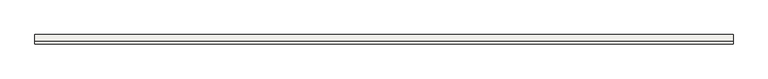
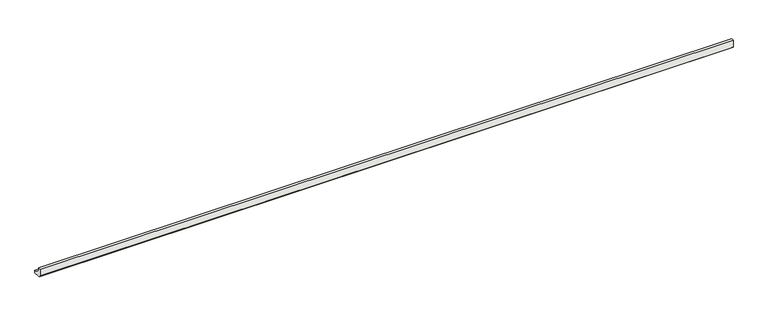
"""IFC4 building model written with IfcOpenShell, lengths in millimetres: slab geometry, ROSA GRES_188 : Pieza 188_Tresor_Bali_Anti-Slip."""

from ifc_helpers import new_model, si_unit, point, frame, frame_2d, origin, place, context, project, spatial, polyline, circle_curve, trimmed, segment, composite_curve, outline, extrude, source, transform, mapped, element, save


def slab_4dad34ea(model_context):
    return source(origin(), model_context, "Body", "SweptSolid", [
        extrude(outline(composite_curve([segment(polyline([(0.0, 8.7114978), (0.0, 40.0), (9.9734114, 40.0)]), True, "CONTINUOUS"), segment(trimmed(circle_curve(frame_2d((39.9955547, 39.9955547)), 30.0221435), [point((9.9734114, 40.0))], [point((40.0, 9.9734114))], True, "CARTESIAN"), True, "CONTINUOUS"), segment(polyline([(40.0, 9.9734114), (40.0, 0.0), (8.7114978, 0.0), (0.0, 8.7114978)]), True, "CONTINUOUS")], self_intersect=False)), frame((0.0, 0.0, 0.0), z_axis=(1.0, 0.0, 0.0), x_axis=(0.0, 1.0, 0.0)), (0.0, 0.0, 1.0), 3009.8484114),
    ])


if __name__ == "__main__":
    model = new_model("IFC4")
    model_context = context("Model", 3, world=origin())
    ifc_project = project(units=[si_unit("LENGTHUNIT", "METRE", prefix="MILLI")], contexts=[model_context])
    site = spatial("IfcSite", under=ifc_project)
    building = spatial("IfcBuilding", under=site)
    placement = place(None, origin())
    slab_shape = slab_4dad34ea(model_context)
    element("IfcSlab", 1, ObjectType="ROSA GRES_188 : Pieza 188_Tresor_Bali_Anti-Slip", at=placement, inside=building, context=model_context, shape_type="MappedRepresentation", body=[
        mapped(slab_shape, transform((0.0, 0.0, 0.0), x_axis=(1.0, 0.0, 0.0), y_axis=(0.0, 1.0, 0.0), z_axis=(0.0, 0.0, 1.0))),
    ])
    save(model, "model.ifc")
